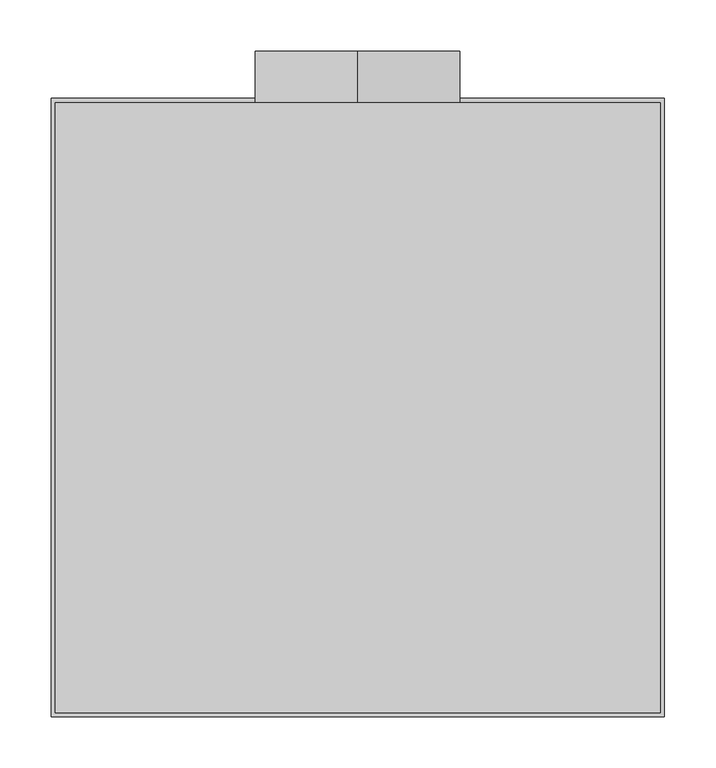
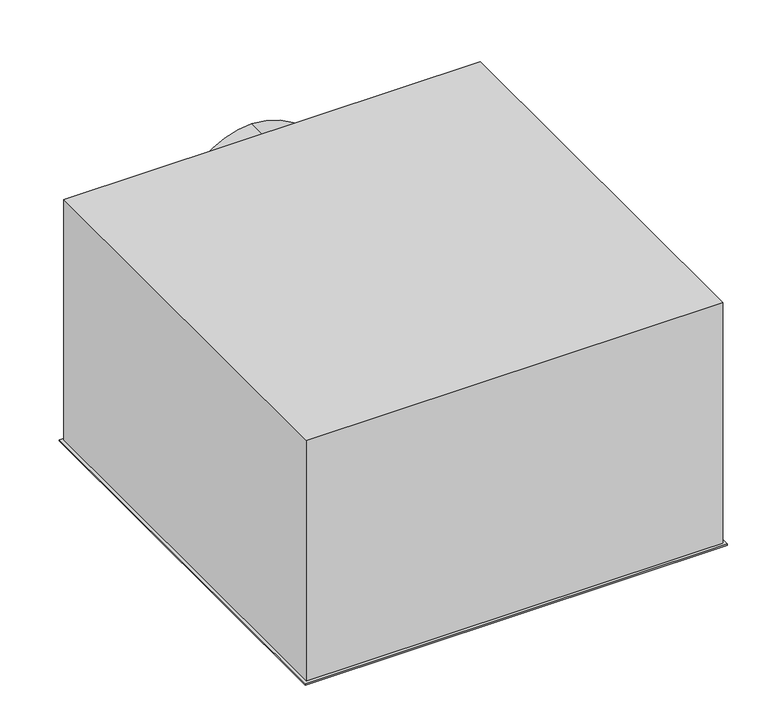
"""IFC4 building model written with IfcOpenShell, lengths in millimetres: air terminal geometry, EOL - plafonnier : EOL-P1-200-600x600."""

from ifc_helpers import new_model, si_unit, point, frame, frame_2d, origin, place, context, project, spatial, polyline, circle_curve, trimmed, segment, composite_curve, outline, extrude, source, transform, mapped, element, save
from ifc_brep_helpers import plane_surface, revolved_surface, advanced_brep


def air_terminal_e5bce460(model_context):
    return source(origin(), model_context, "Body", "SolidModel", [
        extrude(outline(composite_curve([segment(polyline([(546.8125856, 1.0), (546.8125856, 2.0025269)]), True, "CONTINUOUS"), segment(trimmed(circle_curve(frame_2d((544.7125856, 31.0266548)), 29.1), [point((546.8125856, 2.0025269))], [point((573.5, 26.77286))], True, "CARTESIAN"), True, "CONTINUOUS"), segment(polyline([(573.5, 26.77286), (573.5, 35.0), (574.5, 35.0), (574.5, 26.7)]), True, "CONTINUOUS"), segment(trimmed(circle_curve(frame_2d((544.7125856, 31.0266548)), 30.1), [point((574.5, 26.7))], [point((546.8125856, 1.0))], False, "CARTESIAN"), True, "CONTINUOUS")], self_intersect=False)), frame((-286.3125856, 0.0, 0.0), z_axis=(1.0, 0.0, 0.0), x_axis=(0.0, 1.0, 0.0)), (0.0, 0.0, 1.0), 572.6251712),
        extrude(outline(composite_curve([segment(polyline([(519.8125856, 1.0), (519.8125856, 2.0025269)]), True, "CONTINUOUS"), segment(trimmed(circle_curve(frame_2d((517.7125856, 31.0266548)), 29.1), [point((519.8125856, 2.0025269))], [point((546.5, 26.77286))], True, "CARTESIAN"), True, "CONTINUOUS"), segment(polyline([(546.5, 26.77286), (546.5, 35.0), (547.5, 35.0), (547.5, 26.7)]), True, "CONTINUOUS"), segment(trimmed(circle_curve(frame_2d((517.7125856, 31.0266548)), 30.1), [point((547.5, 26.7))], [point((519.8125856, 1.0))], False, "CARTESIAN"), True, "CONTINUOUS")], self_intersect=False)), frame((-286.3125856, 0.0, 0.0), z_axis=(1.0, 0.0, 0.0), x_axis=(0.0, 1.0, 0.0)), (0.0, 0.0, 1.0), 572.6251712),
        extrude(outline(composite_curve([segment(polyline([(492.8125856, 1.0), (492.8125856, 2.0025269)]), True, "CONTINUOUS"), segment(trimmed(circle_curve(frame_2d((490.7125856, 31.0266548)), 29.1), [point((492.8125856, 2.0025269))], [point((519.5, 26.77286))], True, "CARTESIAN"), True, "CONTINUOUS"), segment(polyline([(519.5, 26.77286), (519.5, 35.0), (520.5, 35.0), (520.5, 26.7)]), True, "CONTINUOUS"), segment(trimmed(circle_curve(frame_2d((490.7125856, 31.0266548)), 30.1), [point((520.5, 26.7))], [point((492.8125856, 1.0))], False, "CARTESIAN"), True, "CONTINUOUS")], self_intersect=False)), frame((-286.3125856, 0.0, 0.0), z_axis=(1.0, 0.0, 0.0), x_axis=(0.0, 1.0, 0.0)), (0.0, 0.0, 1.0), 572.6251712),
        extrude(outline(composite_curve([segment(polyline([(465.8125856, 1.0), (465.8125856, 2.0025269)]), True, "CONTINUOUS"), segment(trimmed(circle_curve(frame_2d((463.7125856, 31.0266548)), 29.1), [point((465.8125856, 2.0025269))], [point((492.5, 26.77286))], True, "CARTESIAN"), True, "CONTINUOUS"), segment(polyline([(492.5, 26.77286), (492.5, 35.0), (493.5, 35.0), (493.5, 26.7)]), True, "CONTINUOUS"), segment(trimmed(circle_curve(frame_2d((463.7125856, 31.0266548)), 30.1), [point((493.5, 26.7))], [point((465.8125856, 1.0))], False, "CARTESIAN"), True, "CONTINUOUS")], self_intersect=False)), frame((-286.3125856, 0.0, 0.0), z_axis=(1.0, 0.0, 0.0), x_axis=(0.0, 1.0, 0.0)), (0.0, 0.0, 1.0), 572.6251712),
        extrude(outline(composite_curve([segment(polyline([(438.8125856, 1.0), (438.8125856, 2.0025269)]), True, "CONTINUOUS"), segment(trimmed(circle_curve(frame_2d((436.7125856, 31.0266548)), 29.1), [point((438.8125856, 2.0025269))], [point((465.5, 26.77286))], True, "CARTESIAN"), True, "CONTINUOUS"), segment(polyline([(465.5, 26.77286), (465.5, 35.0), (466.5, 35.0), (466.5, 26.7)]), True, "CONTINUOUS"), segment(trimmed(circle_curve(frame_2d((436.7125856, 31.0266548)), 30.1), [point((466.5, 26.7))], [point((438.8125856, 1.0))], False, "CARTESIAN"), True, "CONTINUOUS")], self_intersect=False)), frame((-286.3125856, 0.0, 0.0), z_axis=(1.0, 0.0, 0.0), x_axis=(0.0, 1.0, 0.0)), (0.0, 0.0, 1.0), 572.6251712),
        extrude(outline(composite_curve([segment(polyline([(411.8125856, 1.0), (411.8125856, 2.0025269)]), True, "CONTINUOUS"), segment(trimmed(circle_curve(frame_2d((409.7125856, 31.0266548)), 29.1), [point((411.8125856, 2.0025269))], [point((438.5, 26.77286))], True, "CARTESIAN"), True, "CONTINUOUS"), segment(polyline([(438.5, 26.77286), (438.5, 35.0), (439.5, 35.0), (439.5, 26.7)]), True, "CONTINUOUS"), segment(trimmed(circle_curve(frame_2d((409.7125856, 31.0266548)), 30.1), [point((439.5, 26.7))], [point((411.8125856, 1.0))], False, "CARTESIAN"), True, "CONTINUOUS")], self_intersect=False)), frame((-286.3125856, 0.0, 0.0), z_axis=(1.0, 0.0, 0.0), x_axis=(0.0, 1.0, 0.0)), (0.0, 0.0, 1.0), 572.6251712),
        extrude(outline(composite_curve([segment(polyline([(384.8125856, 1.0), (384.8125856, 2.0025269)]), True, "CONTINUOUS"), segment(trimmed(circle_curve(frame_2d((382.7125856, 31.0266548)), 29.1), [point((384.8125856, 2.0025269))], [point((411.5, 26.77286))], True, "CARTESIAN"), True, "CONTINUOUS"), segment(polyline([(411.5, 26.77286), (411.5, 35.0), (412.5, 35.0), (412.5, 26.7)]), True, "CONTINUOUS"), segment(trimmed(circle_curve(frame_2d((382.7125856, 31.0266548)), 30.1), [point((412.5, 26.7))], [point((384.8125856, 1.0))], False, "CARTESIAN"), True, "CONTINUOUS")], self_intersect=False)), frame((-286.3125856, 0.0, 0.0), z_axis=(1.0, 0.0, 0.0), x_axis=(0.0, 1.0, 0.0)), (0.0, 0.0, 1.0), 572.6251712),
        extrude(outline(composite_curve([segment(polyline([(357.8125856, 1.0), (357.8125856, 2.0025269)]), True, "CONTINUOUS"), segment(trimmed(circle_curve(frame_2d((355.7125856, 31.0266548)), 29.1), [point((357.8125856, 2.0025269))], [point((384.5, 26.77286))], True, "CARTESIAN"), True, "CONTINUOUS"), segment(polyline([(384.5, 26.77286), (384.5, 35.0), (385.5, 35.0), (385.5, 26.7)]), True, "CONTINUOUS"), segment(trimmed(circle_curve(frame_2d((355.7125856, 31.0266548)), 30.1), [point((385.5, 26.7))], [point((357.8125856, 1.0))], False, "CARTESIAN"), True, "CONTINUOUS")], self_intersect=False)), frame((-286.3125856, 0.0, 0.0), z_axis=(1.0, 0.0, 0.0), x_axis=(0.0, 1.0, 0.0)), (0.0, 0.0, 1.0), 572.6251712),
        extrude(outline(composite_curve([segment(polyline([(330.8125856, 1.0), (330.8125856, 2.0025269)]), True, "CONTINUOUS"), segment(trimmed(circle_curve(frame_2d((328.7125856, 31.0266548)), 29.1), [point((330.8125856, 2.0025269))], [point((357.5, 26.77286))], True, "CARTESIAN"), True, "CONTINUOUS"), segment(polyline([(357.5, 26.77286), (357.5, 35.0), (358.5, 35.0), (358.5, 26.7)]), True, "CONTINUOUS"), segment(trimmed(circle_curve(frame_2d((328.7125856, 31.0266548)), 30.1), [point((358.5, 26.7))], [point((330.8125856, 1.0))], False, "CARTESIAN"), True, "CONTINUOUS")], self_intersect=False)), frame((-286.3125856, 0.0, 0.0), z_axis=(1.0, 0.0, 0.0), x_axis=(0.0, 1.0, 0.0)), (0.0, 0.0, 1.0), 572.6251712),
        extrude(outline(composite_curve([segment(polyline([(303.8125856, 1.0), (303.8125856, 2.0025269)]), True, "CONTINUOUS"), segment(trimmed(circle_curve(frame_2d((301.7125856, 31.0266548)), 29.1), [point((303.8125856, 2.0025269))], [point((330.5, 26.77286))], True, "CARTESIAN"), True, "CONTINUOUS"), segment(polyline([(330.5, 26.77286), (330.5, 35.0), (331.5, 35.0), (331.5, 26.7)]), True, "CONTINUOUS"), segment(trimmed(circle_curve(frame_2d((301.7125856, 31.0266548)), 30.1), [point((331.5, 26.7))], [point((303.8125856, 1.0))], False, "CARTESIAN"), True, "CONTINUOUS")], self_intersect=False)), frame((-286.3125856, 0.0, 0.0), z_axis=(1.0, 0.0, 0.0), x_axis=(0.0, 1.0, 0.0)), (0.0, 0.0, 1.0), 572.6251712),
        extrude(outline(composite_curve([segment(polyline([(276.8125856, 1.0), (276.8125856, 2.0025269)]), True, "CONTINUOUS"), segment(trimmed(circle_curve(frame_2d((274.7125856, 31.0266548)), 29.1), [point((276.8125856, 2.0025269))], [point((303.5, 26.77286))], True, "CARTESIAN"), True, "CONTINUOUS"), segment(polyline([(303.5, 26.77286), (303.5, 35.0), (304.5, 35.0), (304.5, 26.7)]), True, "CONTINUOUS"), segment(trimmed(circle_curve(frame_2d((274.7125856, 31.0266548)), 30.1), [point((304.5, 26.7))], [point((276.8125856, 1.0))], False, "CARTESIAN"), True, "CONTINUOUS")], self_intersect=False)), frame((-286.3125856, 0.0, 0.0), z_axis=(1.0, 0.0, 0.0), x_axis=(0.0, 1.0, 0.0)), (0.0, 0.0, 1.0), 572.6251712),
        extrude(outline(composite_curve([segment(polyline([(249.8125856, 1.0), (249.8125856, 2.0025269)]), True, "CONTINUOUS"), segment(trimmed(circle_curve(frame_2d((247.7125856, 31.0266548)), 29.1), [point((249.8125856, 2.0025269))], [point((276.5, 26.77286))], True, "CARTESIAN"), True, "CONTINUOUS"), segment(polyline([(276.5, 26.77286), (276.5, 35.0), (277.5, 35.0), (277.5, 26.7)]), True, "CONTINUOUS"), segment(trimmed(circle_curve(frame_2d((247.7125856, 31.0266548)), 30.1), [point((277.5, 26.7))], [point((249.8125856, 1.0))], False, "CARTESIAN"), True, "CONTINUOUS")], self_intersect=False)), frame((-286.3125856, 0.0, 0.0), z_axis=(1.0, 0.0, 0.0), x_axis=(0.0, 1.0, 0.0)), (0.0, 0.0, 1.0), 572.6251712),
        extrude(outline(composite_curve([segment(polyline([(222.8125856, 1.0), (222.8125856, 2.0025269)]), True, "CONTINUOUS"), segment(trimmed(circle_curve(frame_2d((220.7125856, 31.0266548)), 29.1), [point((222.8125856, 2.0025269))], [point((249.5, 26.77286))], True, "CARTESIAN"), True, "CONTINUOUS"), segment(polyline([(249.5, 26.77286), (249.5, 35.0), (250.5, 35.0), (250.5, 26.7)]), True, "CONTINUOUS"), segment(trimmed(circle_curve(frame_2d((220.7125856, 31.0266548)), 30.1), [point((250.5, 26.7))], [point((222.8125856, 1.0))], False, "CARTESIAN"), True, "CONTINUOUS")], self_intersect=False)), frame((-286.3125856, 0.0, 0.0), z_axis=(1.0, 0.0, 0.0), x_axis=(0.0, 1.0, 0.0)), (0.0, 0.0, 1.0), 572.6251712),
        extrude(outline(composite_curve([segment(polyline([(195.8125856, 1.0), (195.8125856, 2.0025269)]), True, "CONTINUOUS"), segment(trimmed(circle_curve(frame_2d((193.7125856, 31.0266548)), 29.1), [point((195.8125856, 2.0025269))], [point((222.5, 26.77286))], True, "CARTESIAN"), True, "CONTINUOUS"), segment(polyline([(222.5, 26.77286), (222.5, 35.0), (223.5, 35.0), (223.5, 26.7)]), True, "CONTINUOUS"), segment(trimmed(circle_curve(frame_2d((193.7125856, 31.0266548)), 30.1), [point((223.5, 26.7))], [point((195.8125856, 1.0))], False, "CARTESIAN"), True, "CONTINUOUS")], self_intersect=False)), frame((-286.3125856, 0.0, 0.0), z_axis=(1.0, 0.0, 0.0), x_axis=(0.0, 1.0, 0.0)), (0.0, 0.0, 1.0), 572.6251712),
        extrude(outline(composite_curve([segment(polyline([(168.8125856, 1.0), (168.8125856, 2.0025269)]), True, "CONTINUOUS"), segment(trimmed(circle_curve(frame_2d((166.7125856, 31.0266548)), 29.1), [point((168.8125856, 2.0025269))], [point((195.5, 26.77286))], True, "CARTESIAN"), True, "CONTINUOUS"), segment(polyline([(195.5, 26.77286), (195.5, 35.0), (196.5, 35.0), (196.5, 26.7)]), True, "CONTINUOUS"), segment(trimmed(circle_curve(frame_2d((166.7125856, 31.0266548)), 30.1), [point((196.5, 26.7))], [point((168.8125856, 1.0))], False, "CARTESIAN"), True, "CONTINUOUS")], self_intersect=False)), frame((-286.3125856, 0.0, 0.0), z_axis=(1.0, 0.0, 0.0), x_axis=(0.0, 1.0, 0.0)), (0.0, 0.0, 1.0), 572.6251712),
        extrude(outline(composite_curve([segment(polyline([(141.8125856, 1.0), (141.8125856, 2.0025269)]), True, "CONTINUOUS"), segment(trimmed(circle_curve(frame_2d((139.7125856, 31.0266548)), 29.1), [point((141.8125856, 2.0025269))], [point((168.5, 26.77286))], True, "CARTESIAN"), True, "CONTINUOUS"), segment(polyline([(168.5, 26.77286), (168.5, 35.0), (169.5, 35.0), (169.5, 26.7)]), True, "CONTINUOUS"), segment(trimmed(circle_curve(frame_2d((139.7125856, 31.0266548)), 30.1), [point((169.5, 26.7))], [point((141.8125856, 1.0))], False, "CARTESIAN"), True, "CONTINUOUS")], self_intersect=False)), frame((-286.3125856, 0.0, 0.0), z_axis=(1.0, 0.0, 0.0), x_axis=(0.0, 1.0, 0.0)), (0.0, 0.0, 1.0), 572.6251712),
        extrude(outline(composite_curve([segment(polyline([(114.8125856, 1.0), (114.8125856, 2.0025269)]), True, "CONTINUOUS"), segment(trimmed(circle_curve(frame_2d((112.7125856, 31.0266548)), 29.1), [point((114.8125856, 2.0025269))], [point((141.5, 26.77286))], True, "CARTESIAN"), True, "CONTINUOUS"), segment(polyline([(141.5, 26.77286), (141.5, 35.0), (142.5, 35.0), (142.5, 26.7)]), True, "CONTINUOUS"), segment(trimmed(circle_curve(frame_2d((112.7125856, 31.0266548)), 30.1), [point((142.5, 26.7))], [point((114.8125856, 1.0))], False, "CARTESIAN"), True, "CONTINUOUS")], self_intersect=False)), frame((-286.3125856, 0.0, 0.0), z_axis=(1.0, 0.0, 0.0), x_axis=(0.0, 1.0, 0.0)), (0.0, 0.0, 1.0), 572.6251712),
        extrude(outline(composite_curve([segment(polyline([(87.8125856, 1.0), (87.8125856, 2.0025269)]), True, "CONTINUOUS"), segment(trimmed(circle_curve(frame_2d((85.7125856, 31.0266548)), 29.1), [point((87.8125856, 2.0025269))], [point((114.5, 26.77286))], True, "CARTESIAN"), True, "CONTINUOUS"), segment(polyline([(114.5, 26.77286), (114.5, 35.0), (115.5, 35.0), (115.5, 26.7)]), True, "CONTINUOUS"), segment(trimmed(circle_curve(frame_2d((85.7125856, 31.0266548)), 30.1), [point((115.5, 26.7))], [point((87.8125856, 1.0))], False, "CARTESIAN"), True, "CONTINUOUS")], self_intersect=False)), frame((-286.3125856, 0.0, 0.0), z_axis=(1.0, 0.0, 0.0), x_axis=(0.0, 1.0, 0.0)), (0.0, 0.0, 1.0), 572.6251712),
        extrude(outline(composite_curve([segment(polyline([(60.8125856, 1.0), (60.8125856, 2.0025269)]), True, "CONTINUOUS"), segment(trimmed(circle_curve(frame_2d((58.7125856, 31.0266548)), 29.1), [point((60.8125856, 2.0025269))], [point((87.5, 26.77286))], True, "CARTESIAN"), True, "CONTINUOUS"), segment(polyline([(87.5, 26.77286), (87.5, 35.0), (88.5, 35.0), (88.5, 26.7)]), True, "CONTINUOUS"), segment(trimmed(circle_curve(frame_2d((58.7125856, 31.0266548)), 30.1), [point((88.5, 26.7))], [point((60.8125856, 1.0))], False, "CARTESIAN"), True, "CONTINUOUS")], self_intersect=False)), frame((-286.3125856, 0.0, 0.0), z_axis=(1.0, 0.0, 0.0), x_axis=(0.0, 1.0, 0.0)), (0.0, 0.0, 1.0), 572.6251712),
        extrude(outline(composite_curve([segment(polyline([(33.8125856, 1.0), (33.8125856, 2.0025269)]), True, "CONTINUOUS"), segment(trimmed(circle_curve(frame_2d((31.7125856, 31.0266548)), 29.1), [point((33.8125856, 2.0025269))], [point((60.5, 26.77286))], True, "CARTESIAN"), True, "CONTINUOUS"), segment(polyline([(60.5, 26.77286), (60.5, 35.0), (61.5, 35.0), (61.5, 26.7)]), True, "CONTINUOUS"), segment(trimmed(circle_curve(frame_2d((31.7125856, 31.0266548)), 30.1), [point((61.5, 26.7))], [point((33.8125856, 1.0))], False, "CARTESIAN"), True, "CONTINUOUS")], self_intersect=False)), frame((-286.3125856, 0.0, 0.0), z_axis=(1.0, 0.0, 0.0), x_axis=(0.0, 1.0, 0.0)), (0.0, 0.0, 1.0), 572.6251712),
        extrude(outline(composite_curve([segment(polyline([(6.8125856, 1.0), (6.8125856, 2.0025269)]), True, "CONTINUOUS"), segment(trimmed(circle_curve(frame_2d((4.7125856, 31.0266548)), 29.1), [point((6.8125856, 2.0025269))], [point((33.5, 26.77286))], True, "CARTESIAN"), True, "CONTINUOUS"), segment(polyline([(33.5, 26.77286), (33.5, 35.0), (34.5, 35.0), (34.5, 26.7)]), True, "CONTINUOUS"), segment(trimmed(circle_curve(frame_2d((4.7125856, 31.0266548)), 30.1), [point((34.5, 26.7))], [point((6.8125856, 1.0))], False, "CARTESIAN"), True, "CONTINUOUS")], self_intersect=False)), frame((-286.3125856, 0.0, 0.0), z_axis=(1.0, 0.0, 0.0), x_axis=(0.0, 1.0, 0.0)), (0.0, 0.0, 1.0), 572.6251712),
        extrude(outline(polyline([(299.0, 594.0), (299.0, -9.0), (-299.0, -9.0), (-299.0, 594.0), (299.0, 594.0)]), holes=[polyline([(290.0, 585.0), (-290.0, 585.0), (-290.0, 0.0), (290.0, 0.0), (290.0, 585.0)])]), frame((0.0, 0.0, -2.0), z_axis=(0.0, 0.0, 1.0), x_axis=(1.0, 0.0, 0.0)), (0.0, 0.0, 1.0), 2.0),
        extrude(outline(composite_curve([segment(trimmed(circle_curve(frame_2d((241.0, 0.0)), 100.0), [point((141.0, 0.0))], [point((341.0, 0.0))], False, "CARTESIAN"), True, "CONTINUOUS"), segment(trimmed(circle_curve(frame_2d((241.0, 0.0)), 100.0), [point((341.0, 0.0))], [point((141.0, 0.0))], False, "CARTESIAN"), True, "CONTINUOUS")], self_intersect=False), holes=[composite_curve([segment(trimmed(circle_curve(frame_2d((241.0, 0.0)), 99.0), [point((241.0, 99.0))], [point((241.0, -99.0))], True, "CARTESIAN"), True, "CONTINUOUS"), segment(trimmed(circle_curve(frame_2d((241.0, 0.0)), 99.0), [point((241.0, -99.0))], [point((241.0, 99.0))], True, "CARTESIAN"), True, "CONTINUOUS")], self_intersect=False)]), frame((0.0, 590.0, 0.0), z_axis=(0.0, 1.0, 0.0), x_axis=(0.0, 0.0, 1.0)), (0.0, 0.0, 1.0), 50.0),
        advanced_brep(
        [(295.0, 590.0, 361.0), (-295.0, 590.0, 361.0), (-295.0, -5.0, 361.0), (295.0, -5.0, 361.0), (295.0, 590.0, 0.0), (295.0, -5.0, 0.0), (-295.0, -5.0, 0.0), (-295.0, 590.0, 0.0), (290.0, 585.0, 0.0), (-290.0, 585.0, 0.0), (-290.0, 0.0, 0.0), (290.0, 0.0, 0.0), (-99.0, 590.0, 241.0), (99.0, 590.0, 241.0), (290.0, 585.0, 356.0), (290.0, 0.0, 356.0), (-290.0, 0.0, 356.0), (-290.0, 585.0, 356.0), (99.0, 585.0, 241.0), (-99.0, 585.0, 241.0)],
        [
            (0, 1),
            (1, 2),
            (2, 3),
            (3, 0),
            (4, 5),
            (5, 6),
            (6, 7),
            (7, 4),
            (8, 9),
            (9, 10),
            (10, 11),
            (11, 8),
            (0, 4),
            (7, 1),
            (12, 13, circle_curve(frame((0.0, 590.0, 241.0), z_axis=(0.0, -1.0, 0.0), x_axis=(1.0, 0.0, 0.0)), 99.0)),
            (13, 12, circle_curve(frame((0.0, 590.0, 241.0), z_axis=(0.0, -1.0, 0.0), x_axis=(1.0, 0.0, 0.0)), 99.0)),
            (6, 2),
            (5, 3),
            (14, 15),
            (15, 16),
            (16, 17),
            (17, 14),
            (17, 9),
            (8, 14),
            (18, 19, circle_curve(frame((0.0, 585.0, 241.0), z_axis=(0.0, 1.0, 0.0), x_axis=(1.0, 0.0, 0.0)), 99.0)),
            (19, 18, circle_curve(frame((0.0, 585.0, 241.0), z_axis=(0.0, 1.0, 0.0), x_axis=(1.0, 0.0, 0.0)), 99.0)),
            (16, 10),
            (15, 11),
            (12, 19),
            (18, 13),
        ],
        [
            plane_surface(frame((-295.0, 590.0, 361.0), z_axis=(0.0, 0.0, 1.0), x_axis=(-1.0, 0.0, 0.0))),
            plane_surface(frame((-295.0, 590.0, 0.0), z_axis=(0.0, 0.0, -1.0), x_axis=(1.0, 0.0, 0.0))),
            plane_surface(frame((295.0, 590.0, 361.0), z_axis=(0.0, 1.0, 0.0), x_axis=(0.0, 0.0, -1.0))),
            plane_surface(frame((-295.0, 590.0, 361.0), z_axis=(-1.0, 0.0, 0.0), x_axis=(0.0, 0.0, -1.0))),
            plane_surface(frame((-295.0, -5.0, 361.0), z_axis=(0.0, -1.0, 0.0), x_axis=(0.0, 0.0, -1.0))),
            plane_surface(frame((295.0, -5.0, 361.0), z_axis=(1.0, 0.0, 0.0), x_axis=(0.0, 0.0, -1.0))),
            plane_surface(frame((-290.0, 585.0, 356.0), z_axis=(0.0, 0.0, -1.0), x_axis=(-1.0, 0.0, 0.0))),
            plane_surface(frame((290.0, 585.0, 356.0), z_axis=(0.0, -1.0, 0.0), x_axis=(0.0, 0.0, -1.0))),
            plane_surface(frame((-290.0, 585.0, 356.0), z_axis=(1.0, 0.0, 0.0), x_axis=(0.0, 0.0, -1.0))),
            plane_surface(frame((-290.0, 0.0, 356.0), z_axis=(0.0, 1.0, 0.0), x_axis=(0.0, 0.0, -1.0))),
            plane_surface(frame((290.0, 0.0, 356.0), z_axis=(-1.0, 0.0, 0.0), x_axis=(0.0, 0.0, -1.0))),
            revolved_surface(polyline([(99.0, 585.0, 241.0), (99.0, 590.0, 241.0)]), (0.0, 640.0, 241.0), (0.0, -1.0, 0.0)),
        ],
        [
            (0, [[1, 2, 3, 4]]),
            (1, [[5, 6, 7, 8], [9, 10, 11, 12]]),
            (2, [[-1, 13, -8, 14], [15, 16]]),
            (3, [[-2, -14, -7, 17]]),
            (4, [[-3, -17, -6, 18]]),
            (5, [[-4, -18, -5, -13]]),
            (6, [[19, 20, 21, 22]]),
            (7, [[-22, 23, -9, 24], [25, 26]]),
            (8, [[-21, 27, -10, -23]]),
            (9, [[-20, 28, -11, -27]]),
            (10, [[-19, -24, -12, -28]]),
            (11, [[29, -25, 30, -15]]),
            (11, [[-29, -16, -30, -26]]),
        ],
    ),
    ])


if __name__ == "__main__":
    model = new_model("IFC4")
    model_context = context("Model", 3, world=origin())
    ifc_project = project(units=[si_unit("LENGTHUNIT", "METRE", prefix="MILLI")], contexts=[model_context])
    site = spatial("IfcSite", under=ifc_project)
    building = spatial("IfcBuilding", under=site)
    placement = place(None, origin())
    air_terminal_shape = air_terminal_e5bce460(model_context)
    element("IfcAirTerminal", 1, ObjectType="EOL - plafonnier : EOL-P1-200-600x600", at=placement, inside=building, context=model_context, shape_type="MappedRepresentation", body=[
        mapped(air_terminal_shape, transform((0.0, 0.0, 0.0), x_axis=(1.0, 0.0, 0.0), y_axis=(0.0, 1.0, 0.0), z_axis=(0.0, 0.0, 1.0))),
    ])
    save(model, "model.ifc")
